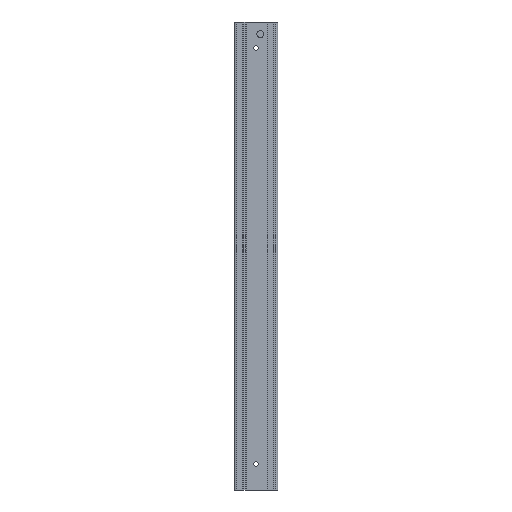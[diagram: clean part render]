
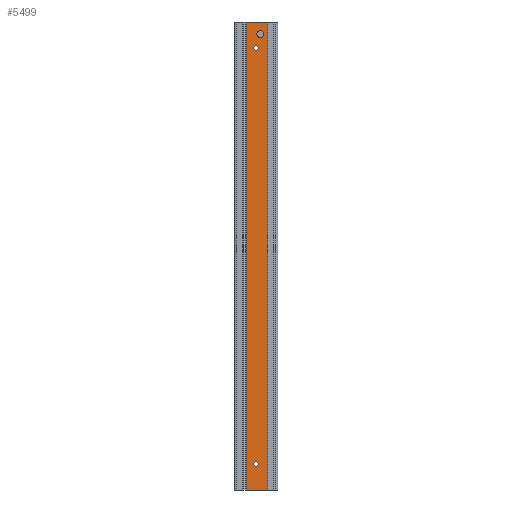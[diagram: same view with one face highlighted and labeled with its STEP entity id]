
A CAD part, left-side view. The second image highlights one B-rep face of the part: STEP entity #5499.
In plain terms, the highlighted planar face has unit normal (-1, 0, 0).
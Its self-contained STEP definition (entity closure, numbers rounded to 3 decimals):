
#632 = AXIS2_PLACEMENT_3D ( 'NONE', #2080, #25560, #7941 ) ;
#840 = EDGE_CURVE ( 'NONE', #6314, #29789, #17060, .T. ) ;
#1106 = EDGE_CURVE ( 'NONE', #30225, #24645, #19784, .T. ) ;
#1125 = EDGE_CURVE ( 'NONE', #30704, #32461, #21162, .T. ) ;
#1267 = VECTOR ( 'NONE', #27611, 1000. ) ;
#2080 = CARTESIAN_POINT ( 'NONE',  ( -35., 0., 135. ) ) ;
#2132 = ORIENTED_EDGE ( 'NONE', *, *, #33822, .F. ) ;
#2356 = DIRECTION ( 'NONE',  ( 0., 0., 1. ) ) ;
#4096 = FACE_BOUND ( 'NONE', #29194, .T. ) ;
#4122 = CARTESIAN_POINT ( 'NONE',  ( -35., 18., 135. ) ) ;
#4259 = EDGE_CURVE ( 'NONE', #4518, #34388, #5581, .T. ) ;
#4518 = VERTEX_POINT ( 'NONE', #28163 ) ;
#4537 = CARTESIAN_POINT ( 'NONE',  ( -35., 12.5, 120. ) ) ;
#4780 = DIRECTION ( 'NONE',  ( 0., 0., 1. ) ) ;
#4927 = ORIENTED_EDGE ( 'NONE', *, *, #24803, .T. ) ;
#5266 = CARTESIAN_POINT ( 'NONE',  ( -35., 10., 128. ) ) ;
#5499 = ADVANCED_FACE ( 'NONE', ( #12820, #8211, #4096, #10979 ), #13743, .T. ) ;
#5581 = LINE ( 'NONE', #21023, #8317 ) ;
#5640 = CARTESIAN_POINT ( 'NONE',  ( -35., 5.8, -135. ) ) ;
#6314 = VERTEX_POINT ( 'NONE', #7618 ) ;
#6581 = ORIENTED_EDGE ( 'NONE', *, *, #18634, .F. ) ;
#7618 = CARTESIAN_POINT ( 'NONE',  ( -35., 12.5, -121.25 ) ) ;
#7619 = CARTESIAN_POINT ( 'NONE',  ( -35., 10., 126. ) ) ;
#7941 = DIRECTION ( 'NONE',  ( 0., 0., 1. ) ) ;
#8211 = FACE_BOUND ( 'NONE', #9870, .T. ) ;
#8317 = VECTOR ( 'NONE', #24113, 1000. ) ;
#9578 = ORIENTED_EDGE ( 'NONE', *, *, #30543, .F. ) ;
#9870 = EDGE_LOOP ( 'NONE', ( #9578, #27329 ) ) ;
#10279 = CARTESIAN_POINT ( 'NONE',  ( -35., 12.5, 120. ) ) ;
#10433 = ORIENTED_EDGE ( 'NONE', *, *, #4259, .T. ) ;
#10573 = VECTOR ( 'NONE', #37232, 1000. ) ;
#10710 = DIRECTION ( 'NONE',  ( 0., 0., 1. ) ) ;
#10979 = FACE_OUTER_BOUND ( 'NONE', #17145, .T. ) ;
#11434 = VERTEX_POINT ( 'NONE', #13715 ) ;
#12140 = EDGE_LOOP ( 'NONE', ( #2132, #27553 ) ) ;
#12199 = DIRECTION ( 'NONE',  ( -1., 0., 0. ) ) ;
#12820 = FACE_BOUND ( 'NONE', #12140, .T. ) ;
#13104 = DIRECTION ( 'NONE',  ( -1., 0., 0. ) ) ;
#13375 = DIRECTION ( 'NONE',  ( -1., 0., 0. ) ) ;
#13715 = CARTESIAN_POINT ( 'NONE',  ( -35., 12.5, 121.25 ) ) ;
#13743 = PLANE ( 'NONE',  #632 ) ;
#14052 = CARTESIAN_POINT ( 'NONE',  ( -35., 10., 128. ) ) ;
#14779 = DIRECTION ( 'NONE',  ( -1., 0., 0. ) ) ;
#15646 = EDGE_CURVE ( 'NONE', #17229, #11434, #18633, .T. ) ;
#16443 = AXIS2_PLACEMENT_3D ( 'NONE', #5266, #19905, #2356 ) ;
#16530 = LINE ( 'NONE', #16548, #10573 ) ;
#16548 = CARTESIAN_POINT ( 'NONE',  ( -35., 5.8, 135. ) ) ;
#17060 = CIRCLE ( 'NONE', #21360, 1.25 ) ;
#17082 = DIRECTION ( 'NONE',  ( 0., 1., 0. ) ) ;
#17145 = EDGE_LOOP ( 'NONE', ( #27413, #6581, #10433, #4927 ) ) ;
#17229 = VERTEX_POINT ( 'NONE', #18561 ) ;
#18561 = CARTESIAN_POINT ( 'NONE',  ( -35., 12.5, 118.75 ) ) ;
#18633 = CIRCLE ( 'NONE', #24391, 1.25 ) ;
#18634 = EDGE_CURVE ( 'NONE', #4518, #30225, #16530, .T. ) ;
#19784 = LINE ( 'NONE', #31238, #28974 ) ;
#19905 = DIRECTION ( 'NONE',  ( -1., 0., 0. ) ) ;
#21023 = CARTESIAN_POINT ( 'NONE',  ( -35., 0., 135. ) ) ;
#21162 = CIRCLE ( 'NONE', #16443, 2. ) ;
#21189 = CARTESIAN_POINT ( 'NONE',  ( -35., 12.5, -120. ) ) ;
#21360 = AXIS2_PLACEMENT_3D ( 'NONE', #23670, #14779, #35334 ) ;
#23059 = CARTESIAN_POINT ( 'NONE',  ( -35., 12.5, -118.75 ) ) ;
#23670 = CARTESIAN_POINT ( 'NONE',  ( -35., 12.5, -120. ) ) ;
#24113 = DIRECTION ( 'NONE',  ( 0., 1., 0. ) ) ;
#24391 = AXIS2_PLACEMENT_3D ( 'NONE', #10279, #13104, #33782 ) ;
#24645 = VERTEX_POINT ( 'NONE', #26410 ) ;
#24803 = EDGE_CURVE ( 'NONE', #34388, #24645, #28823, .T. ) ;
#25361 = DIRECTION ( 'NONE',  ( -1., 0., 0. ) ) ;
#25385 = ORIENTED_EDGE ( 'NONE', *, *, #27368, .F. ) ;
#25560 = DIRECTION ( 'NONE',  ( -1., 0., 0. ) ) ;
#26410 = CARTESIAN_POINT ( 'NONE',  ( -35., 18., -135. ) ) ;
#26960 = ORIENTED_EDGE ( 'NONE', *, *, #15646, .F. ) ;
#27329 = ORIENTED_EDGE ( 'NONE', *, *, #840, .F. ) ;
#27368 = EDGE_CURVE ( 'NONE', #11434, #17229, #32339, .T. ) ;
#27413 = ORIENTED_EDGE ( 'NONE', *, *, #1106, .F. ) ;
#27553 = ORIENTED_EDGE ( 'NONE', *, *, #1125, .F. ) ;
#27611 = DIRECTION ( 'NONE',  ( 0., 0., -1. ) ) ;
#27886 = CARTESIAN_POINT ( 'NONE',  ( -35., 18., 135. ) ) ;
#28163 = CARTESIAN_POINT ( 'NONE',  ( -35., 5.8, 135. ) ) ;
#28823 = LINE ( 'NONE', #4122, #1267 ) ;
#28974 = VECTOR ( 'NONE', #17082, 1000. ) ;
#29194 = EDGE_LOOP ( 'NONE', ( #25385, #26960 ) ) ;
#29503 = AXIS2_PLACEMENT_3D ( 'NONE', #21189, #12199, #32744 ) ;
#29584 = CIRCLE ( 'NONE', #29503, 1.25 ) ;
#29789 = VERTEX_POINT ( 'NONE', #23059 ) ;
#30225 = VERTEX_POINT ( 'NONE', #5640 ) ;
#30543 = EDGE_CURVE ( 'NONE', #29789, #6314, #29584, .T. ) ;
#30704 = VERTEX_POINT ( 'NONE', #36278 ) ;
#31196 = CIRCLE ( 'NONE', #34494, 2. ) ;
#31238 = CARTESIAN_POINT ( 'NONE',  ( -35., 0., -135. ) ) ;
#32339 = CIRCLE ( 'NONE', #32383, 1.25 ) ;
#32383 = AXIS2_PLACEMENT_3D ( 'NONE', #4537, #13375, #4780 ) ;
#32461 = VERTEX_POINT ( 'NONE', #7619 ) ;
#32744 = DIRECTION ( 'NONE',  ( 0., 0., 1. ) ) ;
#33782 = DIRECTION ( 'NONE',  ( 0., 0., 1. ) ) ;
#33822 = EDGE_CURVE ( 'NONE', #32461, #30704, #31196, .T. ) ;
#34388 = VERTEX_POINT ( 'NONE', #27886 ) ;
#34494 = AXIS2_PLACEMENT_3D ( 'NONE', #14052, #25361, #10710 ) ;
#35334 = DIRECTION ( 'NONE',  ( 0., 0., 1. ) ) ;
#36278 = CARTESIAN_POINT ( 'NONE',  ( -35., 10., 130. ) ) ;
#37232 = DIRECTION ( 'NONE',  ( 0., 0., -1. ) ) ;
